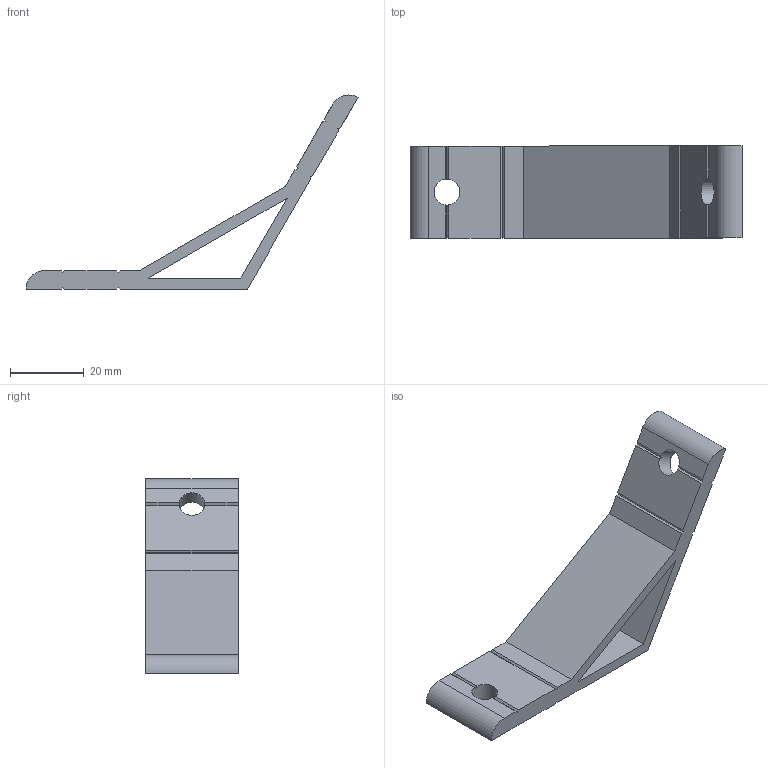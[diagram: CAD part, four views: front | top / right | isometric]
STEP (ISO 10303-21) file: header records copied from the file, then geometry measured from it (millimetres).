
FILE_DESCRIPTION(/* description */ ('Unknown'),/* implementation_level */ '2;1');
FILE_NAME(/* name */ 'AV25120',/* time_stamp */ '2026-09-17T13:47:42+08:00',/* author */ ('Unknown'),/* organization */ ('Unknown'),/* preprocessor_version */ 'ST-DEVELOPER v16.7',/* originating_system */ 'DEX',/* authorisation */ $);
FILE_SCHEMA (('AUTOMOTIVE_DESIGN {1 0 10303 214 3 1 1}'));
Length unit declared in the file: millimetre
Products named in the file (1): AV25120
Bounding box: 90 x 25 x 52.63 mm (x, y, z)
Volume: 14711.3 mm3; surface area: 9496.6 mm2
Topology: 1 solids, 1 shells, 46 faces, 140 edges, 92 vertices
Faces by surface type: plane 42, cylinder 4
Full cylindrical faces by diameter (mm): 7 x2
Entity records: 1592 total; most frequent: CARTESIAN_POINT 277, ORIENTED_EDGE 276, DIRECTION 260, EDGE_CURVE 138, LINE 110, VECTOR 110, VERTEX_POINT 92, AXIS2_PLACEMENT_3D 75
